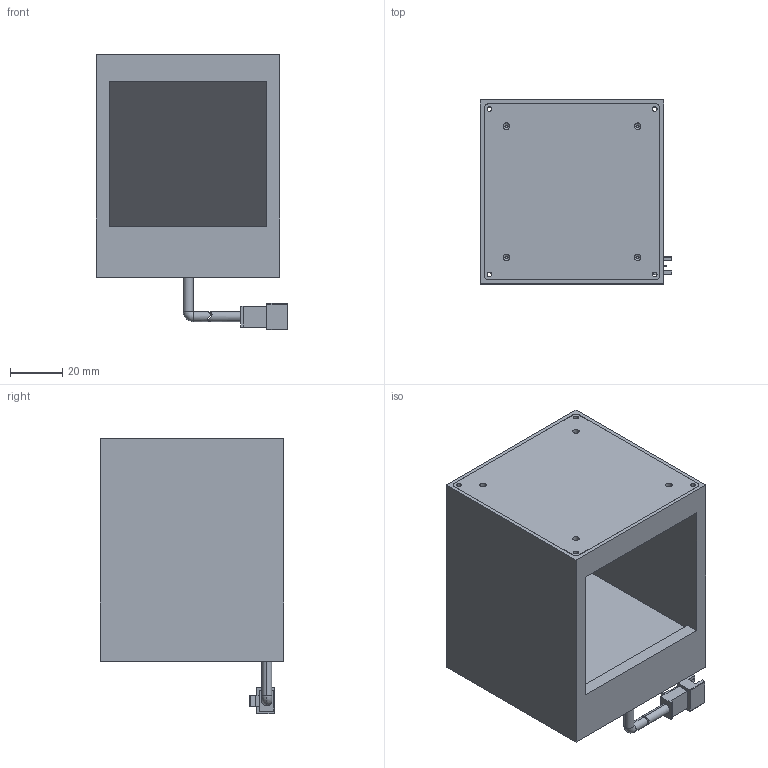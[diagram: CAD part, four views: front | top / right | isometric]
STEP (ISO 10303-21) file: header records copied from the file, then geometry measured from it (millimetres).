
FILE_DESCRIPTION (( 'STEP AP203' ), '1' );
FILE_NAME ('CO70.STEP', '2023-04-06T10:30:24', ( 'User' ), ( 'China' ), 'SwSTEP 2.0', 'SolidWorks 2022', '' );
FILE_SCHEMA (( 'CONFIG_CONTROL_DESIGN' ));
Length unit declared in the file: millimetre
Products named in the file (8): CO70-主体; CO70-防尘镜; 3拼母头; CO70-漫射版; CO70; CO70-后; CO70-分光镜; CO70-前
Assembly tree (7 placements, depth 2):
  CO70
    CO70-主体
    CO70-前
    CO70-后
    CO70-防尘镜
    CO70-漫射版
    CO70-分光镜
    3拼母头
Bounding box: 73 x 70 x 105 mm (x, y, z)
Volume: 144730.3 mm3; surface area: 87218.3 mm2
Topology: 8 solids, 8 shells, 222 faces, 580 edges, 382 vertices
Faces by surface type: plane 132, cylinder 80, cone 8, torus 2
Entity records: 7750 total; most frequent: CARTESIAN_POINT 1230, DIRECTION 1202, ORIENTED_EDGE 1160, EDGE_CURVE 580, AXIS2_PLACEMENT_3D 402, LINE 398, VECTOR 398, VERTEX_POINT 382
